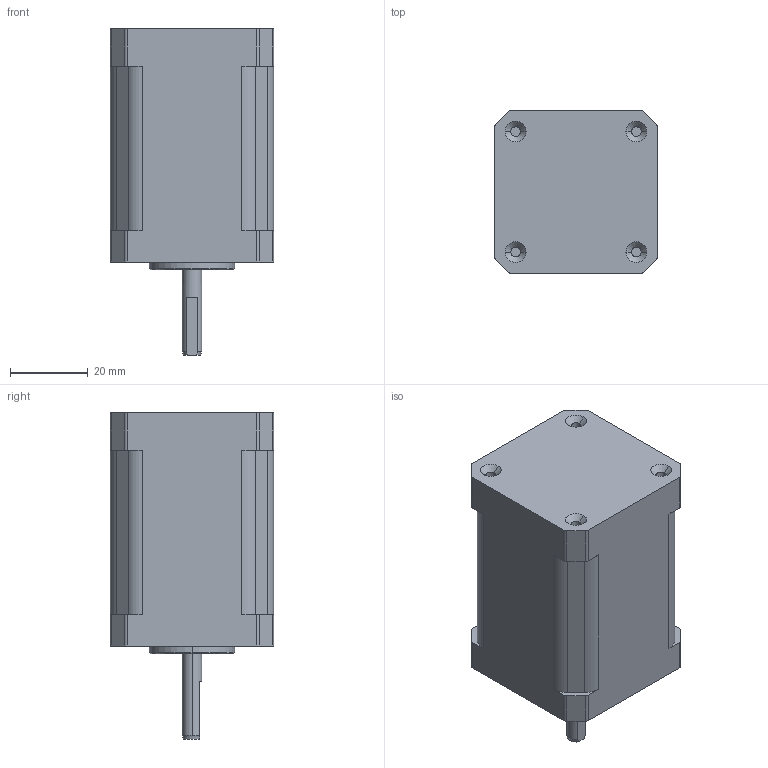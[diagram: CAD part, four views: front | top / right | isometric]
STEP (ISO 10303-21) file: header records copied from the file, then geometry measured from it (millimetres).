
FILE_DESCRIPTION((''),'2;1');
FILE_NAME('ABCD0E94C2B2YBI8_2','2021-09-04T16:20:38',('qingl'),(''),'CREO PARAMETRIC BY PTC INC, 2019224','CREO PARAMETRIC BY PTC INC, 2019224','');
FILE_SCHEMA(('AUTOMOTIVE_DESIGN { 1 0 10303 214 1 1 1 1 }'));
Length unit declared in the file: millimetre
Products named in the file (1): ABCD0E94C2B2YBI8_2
Bounding box: 42 x 42 x 84 mm (x, y, z)
Volume: 102349.8 mm3; surface area: 14031 mm2
Topology: 1 solids, 1 shells, 287 faces, 795 edges, 524 vertices
Faces by surface type: cylinder 212, plane 54, cone 13, bspline 8
Entity records: 16255 total; most frequent: CARTESIAN_POINT 8268, ORIENTED_EDGE 1590, DIRECTION 1132, EDGE_CURVE 795, VERTEX_POINT 524, AXIS2_PLACEMENT_3D 400, B_SPLINE_CURVE_WITH_KNOTS 342, VECTOR 332
